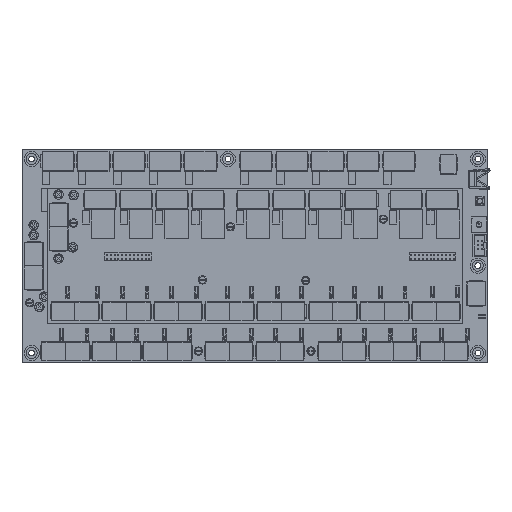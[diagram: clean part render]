
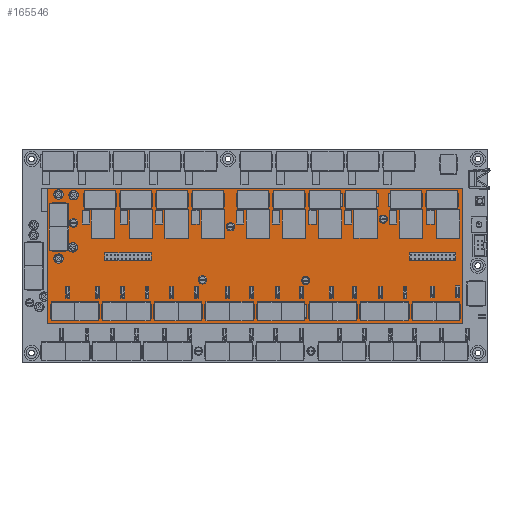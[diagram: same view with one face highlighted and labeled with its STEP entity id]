
A CAD part, top view. The second image highlights one B-rep face of the part: STEP entity #165546.
In plain terms, the highlighted planar face has unit normal (0, 0, 1).
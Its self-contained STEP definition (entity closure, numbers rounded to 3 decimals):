
#2045=FACE_BOUND('',#21395,.T.);
#2046=FACE_BOUND('',#21396,.T.);
#2047=FACE_BOUND('',#21397,.T.);
#2048=FACE_BOUND('',#21398,.T.);
#2049=FACE_BOUND('',#21399,.T.);
#3174=PLANE('',#175340);
#11810=FACE_OUTER_BOUND('',#21394,.T.);
#21394=EDGE_LOOP('',(#119106,#119107,#119108,#119109));
#21395=EDGE_LOOP('',(#119110));
#21396=EDGE_LOOP('',(#119111));
#21397=EDGE_LOOP('',(#119112));
#21398=EDGE_LOOP('',(#119113));
#21399=EDGE_LOOP('',(#119114));
#32215=LINE('',#232395,#54066);
#32221=LINE('',#232406,#54072);
#32222=LINE('',#232409,#54073);
#32226=LINE('',#232415,#54077);
#54066=VECTOR('',#188427,0.394);
#54072=VECTOR('',#188435,0.394);
#54073=VECTOR('',#188438,0.394);
#54077=VECTOR('',#188444,0.394);
#74411=CIRCLE('',#175323,0.072);
#74413=CIRCLE('',#175326,0.072);
#74415=CIRCLE('',#175329,0.072);
#74417=CIRCLE('',#175332,0.072);
#74419=CIRCLE('',#175335,0.072);
#76822=VERTEX_POINT('',#232365);
#76824=VERTEX_POINT('',#232371);
#76826=VERTEX_POINT('',#232377);
#76828=VERTEX_POINT('',#232383);
#76830=VERTEX_POINT('',#232389);
#76831=VERTEX_POINT('',#232393);
#76832=VERTEX_POINT('',#232394);
#76836=VERTEX_POINT('',#232404);
#76837=VERTEX_POINT('',#232408);
#93227=EDGE_CURVE('',#76822,#76822,#74411,.T.);
#93230=EDGE_CURVE('',#76824,#76824,#74413,.T.);
#93233=EDGE_CURVE('',#76826,#76826,#74415,.T.);
#93236=EDGE_CURVE('',#76828,#76828,#74417,.T.);
#93239=EDGE_CURVE('',#76830,#76830,#74419,.T.);
#93240=EDGE_CURVE('',#76831,#76832,#32215,.T.);
#93246=EDGE_CURVE('',#76832,#76836,#32221,.T.);
#93247=EDGE_CURVE('',#76837,#76831,#32222,.T.);
#93251=EDGE_CURVE('',#76836,#76837,#32226,.T.);
#119106=ORIENTED_EDGE('',*,*,#93240,.T.);
#119107=ORIENTED_EDGE('',*,*,#93246,.T.);
#119108=ORIENTED_EDGE('',*,*,#93251,.T.);
#119109=ORIENTED_EDGE('',*,*,#93247,.T.);
#119110=ORIENTED_EDGE('',*,*,#93227,.T.);
#119111=ORIENTED_EDGE('',*,*,#93230,.T.);
#119112=ORIENTED_EDGE('',*,*,#93233,.T.);
#119113=ORIENTED_EDGE('',*,*,#93236,.T.);
#119114=ORIENTED_EDGE('',*,*,#93239,.T.);
#165546=ADVANCED_FACE('',(#11810,#2045,#2046,#2047,#2048,#2049),#3174,.T.);
#175323=AXIS2_PLACEMENT_3D('',#232367,#188395,#188396);
#175326=AXIS2_PLACEMENT_3D('',#232373,#188402,#188403);
#175329=AXIS2_PLACEMENT_3D('',#232379,#188409,#188410);
#175332=AXIS2_PLACEMENT_3D('',#232385,#188416,#188417);
#175335=AXIS2_PLACEMENT_3D('',#232391,#188423,#188424);
#175340=AXIS2_PLACEMENT_3D('',#232416,#188445,#188446);
#188395=DIRECTION('center_axis',(0.,0.,-1.));
#188396=DIRECTION('ref_axis',(-1.,0.,0.));
#188402=DIRECTION('center_axis',(0.,0.,-1.));
#188403=DIRECTION('ref_axis',(-1.,0.,0.));
#188409=DIRECTION('center_axis',(0.,0.,-1.));
#188410=DIRECTION('ref_axis',(-1.,0.,0.));
#188416=DIRECTION('center_axis',(0.,0.,-1.));
#188417=DIRECTION('ref_axis',(-1.,0.,0.));
#188423=DIRECTION('center_axis',(0.,0.,-1.));
#188424=DIRECTION('ref_axis',(-1.,0.,0.));
#188427=DIRECTION('',(0.,-1.,0.));
#188435=DIRECTION('',(1.,0.,0.));
#188438=DIRECTION('',(-1.,0.,0.));
#188444=DIRECTION('',(0.,1.,0.));
#188445=DIRECTION('center_axis',(0.,0.,1.));
#188446=DIRECTION('ref_axis',(1.,0.,0.));
#232365=CARTESIAN_POINT('',(6.973,4.382,1.276));
#232367=CARTESIAN_POINT('Origin',(6.901,4.382,1.276));
#232371=CARTESIAN_POINT('',(9.633,4.365,1.276));
#232373=CARTESIAN_POINT('Origin',(9.561,4.365,1.276));
#232377=CARTESIAN_POINT('',(7.693,5.75,1.276));
#232379=CARTESIAN_POINT('Origin',(7.621,5.75,1.276));
#232383=CARTESIAN_POINT('',(3.647,5.85,1.276));
#232385=CARTESIAN_POINT('Origin',(3.575,5.85,1.276));
#232389=CARTESIAN_POINT('',(11.63,5.95,1.276));
#232391=CARTESIAN_POINT('Origin',(11.558,5.95,1.276));
#232393=CARTESIAN_POINT('',(2.901,6.75,1.276));
#232394=CARTESIAN_POINT('',(2.901,3.251,1.276));
#232395=CARTESIAN_POINT('',(2.901,6.75,1.276));
#232404=CARTESIAN_POINT('',(13.601,3.251,1.276));
#232406=CARTESIAN_POINT('',(2.901,3.251,1.276));
#232408=CARTESIAN_POINT('',(13.601,6.75,1.276));
#232409=CARTESIAN_POINT('',(13.601,6.75,1.276));
#232415=CARTESIAN_POINT('',(13.601,3.251,1.276));
#232416=CARTESIAN_POINT('Origin',(8.251,6.75,1.276));
